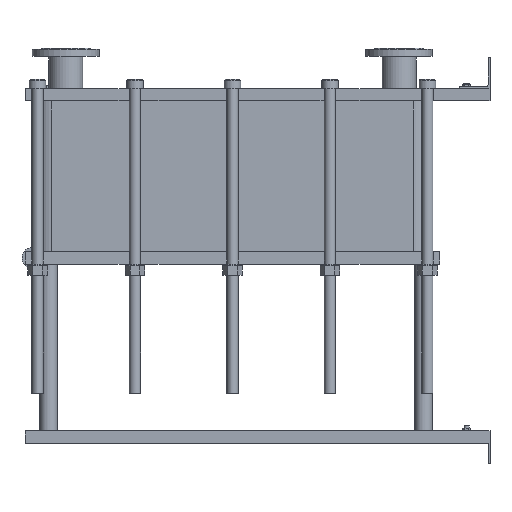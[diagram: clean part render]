
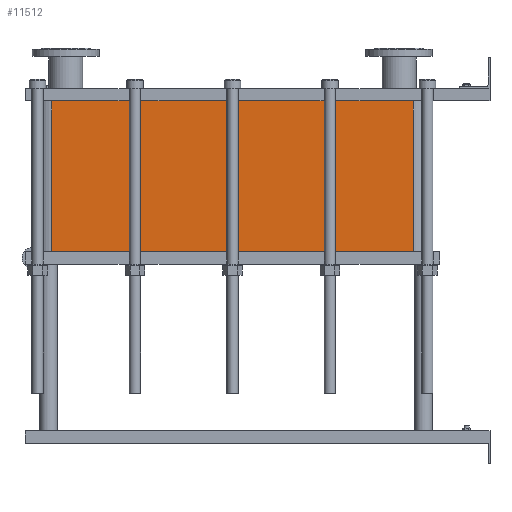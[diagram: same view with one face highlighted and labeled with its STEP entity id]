
A CAD part, left-side view. The second image highlights one B-rep face of the part: STEP entity #11512.
In plain terms, the highlighted planar face has unit normal (-1, 0, 0).
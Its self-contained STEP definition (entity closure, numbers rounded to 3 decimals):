
#1129=LINE('',#23232,#2102);
#1130=LINE('',#23236,#2103);
#1131=LINE('',#23238,#2104);
#1132=LINE('',#23239,#2105);
#2102=VECTOR('',#15887,10.);
#2103=VECTOR('',#15892,10.);
#2104=VECTOR('',#15893,10.);
#2105=VECTOR('',#15894,10.);
#3267=FACE_OUTER_BOUND('',#4093,.T.);
#4093=EDGE_LOOP('',(#10103,#10104,#10105,#10106));
#5642=VERTEX_POINT('',#23229);
#5643=VERTEX_POINT('',#23231);
#5644=VERTEX_POINT('',#23235);
#5645=VERTEX_POINT('',#23237);
#7159=EDGE_CURVE('',#5643,#5642,#1129,.T.);
#7161=EDGE_CURVE('',#5642,#5644,#1130,.T.);
#7162=EDGE_CURVE('',#5645,#5644,#1131,.T.);
#7163=EDGE_CURVE('',#5645,#5643,#1132,.T.);
#10103=ORIENTED_EDGE('',*,*,#7161,.T.);
#10104=ORIENTED_EDGE('',*,*,#7162,.F.);
#10105=ORIENTED_EDGE('',*,*,#7163,.T.);
#10106=ORIENTED_EDGE('',*,*,#7159,.T.);
#10857=PLANE('',#12751);
#11512=ADVANCED_FACE('',(#3267),#10857,.T.);
#12751=AXIS2_PLACEMENT_3D('',#23234,#15890,#15891);
#15887=DIRECTION('',(0.,0.,-1.));
#15890=DIRECTION('center_axis',(-1.,0.,0.));
#15891=DIRECTION('ref_axis',(0.,1.,0.));
#15892=DIRECTION('',(0.,-1.,0.));
#15893=DIRECTION('',(0.,0.,-1.));
#15894=DIRECTION('',(0.,1.,0.));
#23229=CARTESIAN_POINT('',(-200.,1414.,-486.45));
#23231=CARTESIAN_POINT('',(-200.,1414.,0.));
#23232=CARTESIAN_POINT('',(-200.,1414.,0.));
#23234=CARTESIAN_POINT('Origin',(-200.,248.,0.));
#23235=CARTESIAN_POINT('',(-200.,248.,-486.45));
#23236=CARTESIAN_POINT('',(-200.,539.5,-486.45));
#23237=CARTESIAN_POINT('',(-200.,248.,0.));
#23238=CARTESIAN_POINT('',(-200.,248.,0.));
#23239=CARTESIAN_POINT('',(-200.,248.,0.));
